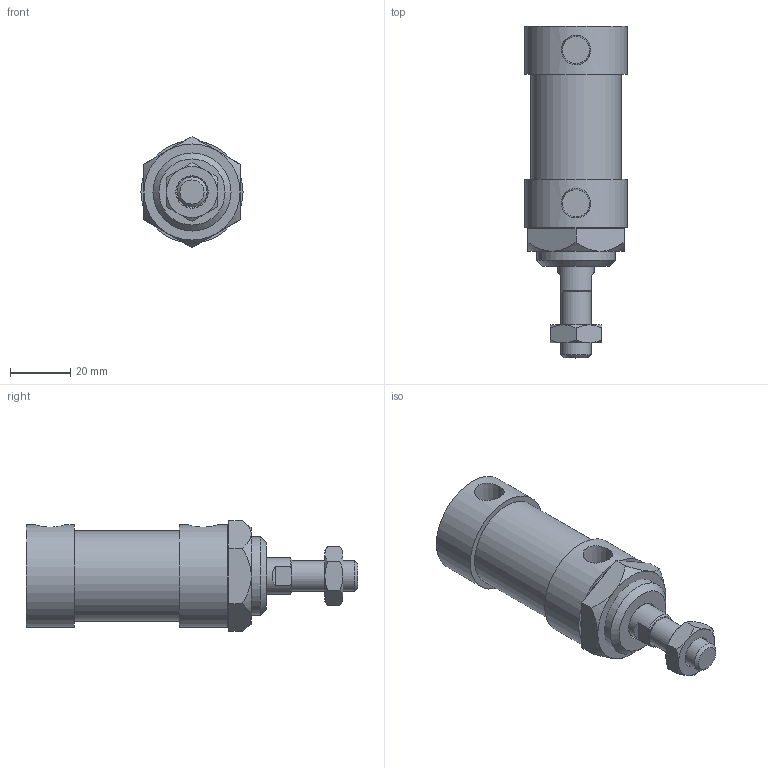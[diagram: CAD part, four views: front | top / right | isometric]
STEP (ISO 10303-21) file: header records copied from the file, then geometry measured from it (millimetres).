
FILE_DESCRIPTION(/* description */ ('Unknown'),/* implementation_level */ '2;1');
FILE_NAME(/* name */ 'WK25-FT',/* time_stamp */ '2026-07-17T16:31:17+08:00',/* author */ ('Unknown'),/* organization */ ('Unknown'),/* preprocessor_version */ 'ST-DEVELOPER v16.7',/* originating_system */ 'DEX',/* authorisation */ $);
FILE_SCHEMA (('CONFIG_CONTROL_DESIGN'));
Length unit declared in the file: millimetre
Products named in the file (7): WK25-FT; WK25_前; WK25_心軸活; WK25_鋁; WK25_FT; M10-1.25P-6_Á³raditional)_Taiwan.950; M26-1.5P-8_螺
Assembly tree (6 placements, depth 2):
  WK25-FT
    WK25_前
    WK25_心軸活
    WK25_鋁
    WK25_FT
    M10-1.25P-6_Á³raditional)_Taiwan.950
    M26-1.5P-8_螺
Bounding box: 34 x 110.5 x 36.95 mm (x, y, z)
Volume: 67552.4 mm3; surface area: 25357.5 mm2
Topology: 6 solids, 6 shells, 87 faces, 180 edges, 111 vertices
Faces by surface type: plane 42, cone 31, cylinder 14
Full cylindrical faces by diameter (mm): 8.75 x1, 10 x1, 12 x2, 24.5 x2, 25 x1, 26 x1, 27 x2, 30 x1, 32 x1, 34 x2
Entity records: 2896 total; most frequent: CARTESIAN_POINT 514, DIRECTION 358, ORIENTED_EDGE 288, AXIS2_PLACEMENT_3D 162, EDGE_CURVE 144, EDGE_LOOP 126, FACE_BOUND 126, VERTEX_POINT 100
